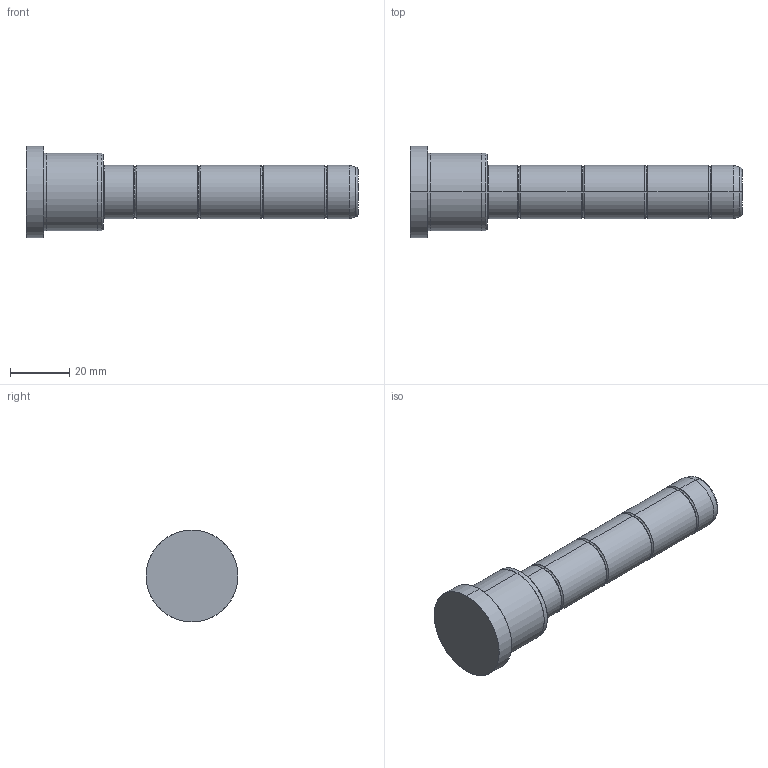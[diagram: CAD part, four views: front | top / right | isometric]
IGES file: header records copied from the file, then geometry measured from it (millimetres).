
Start section: SolidWorks IGES file using analytic representation for surfaces
Global section: file name: C:\Documents and Settings\kalite-mail\Desktop\IGS\D02\18\D02 - 18x26x86.IGS; native system: SolidWorks 2008; preprocessor: SolidWorks 2008; author: kalite-mail; date: 080616.150150; units: millimetre
Bounding box: 112 x 31 x 31 mm (x, y, z)
Surface area: 8616.5 mm2 (no closed solid volume)
Topology: 0 solids, 0 shells, 48 faces, 552 edges, 552 vertices
Faces by surface type: bspline 26, revolution 22
